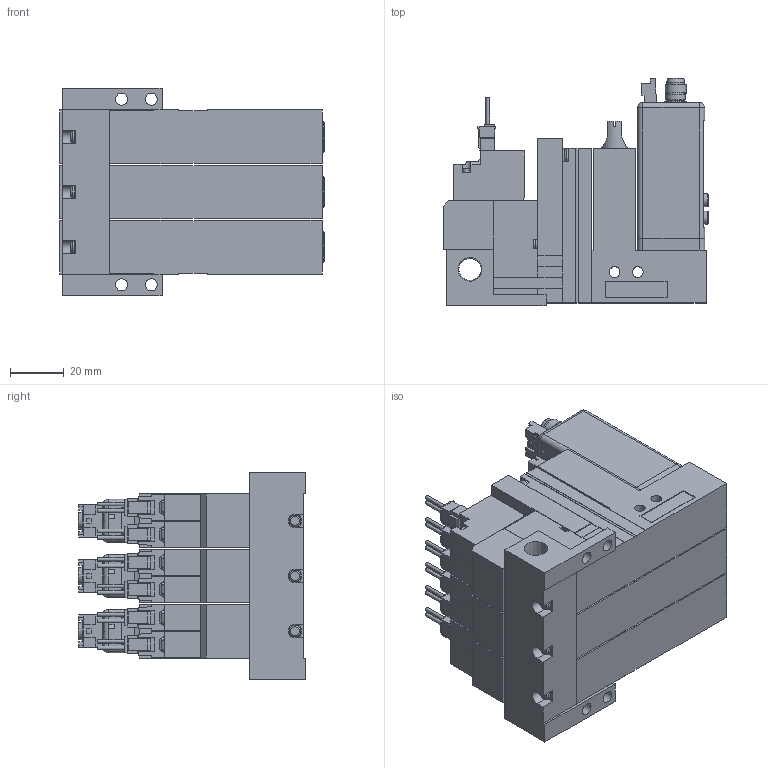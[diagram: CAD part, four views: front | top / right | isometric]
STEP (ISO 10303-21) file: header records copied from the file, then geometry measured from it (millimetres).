
FILE_DESCRIPTION(('STEP AP203'),'1');
FILE_NAME('22_22PLC5BLR303.stp','2025-06-12T02:31:08',(' '),(' '),'Spatial InterOp 3D',' ',' ');
FILE_SCHEMA(('CONFIG_CONTROL_DESIGN'));
Length unit declared in the file: millimetre
Products named in the file (7): BMC22M※※※※22_22PLC5BLR303; Solenoid valve B; Unit LC; Base MR30R; MVS-202
Assembly tree (10 placements, depth 2):
  BMC22M※※※※22_22PLC5BLR303
    Solenoid valve B  x3
    Unit LC  x3
    Base MR30R
    MVS-202
    MVS-202
    MVS-202
Bounding box: 98.5 x 84.6 x 77 mm (x, y, z)
Volume: 328901.1 mm3; surface area: 94445.1 mm2
Topology: 10 solids, 22 shells, 2361 faces, 6158 edges, 4018 vertices
Faces by surface type: plane 1988, cylinder 287, cone 50, torus 24, sphere 12
Full cylindrical faces by diameter (mm): 1 x12, 1.4 x12, 1.5 x3, 2.5 x3, 3 x12, 3.5 x12, 3.6 x3, 4 x6, 4.134 x3, 4.5 x16, 4.8 x9, 5 x6, 5.2 x3, 5.8 x6, 6 x6, 6.5 x9, 6.6 x3, 7 x3, 7.2 x3, 7.9 x3, 8 x6, 8.279 x1
Entity records: 49947 total; most frequent: CARTESIAN_POINT 9035, ORIENTED_EDGE 8186, DIRECTION 8033, EDGE_CURVE 4093, LINE 3467, VECTOR 3467, VERTEX_POINT 2769, AXIS2_PLACEMENT_3D 2283
